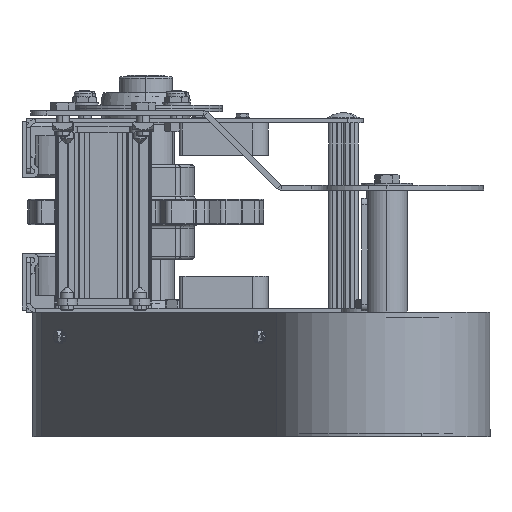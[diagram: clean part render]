
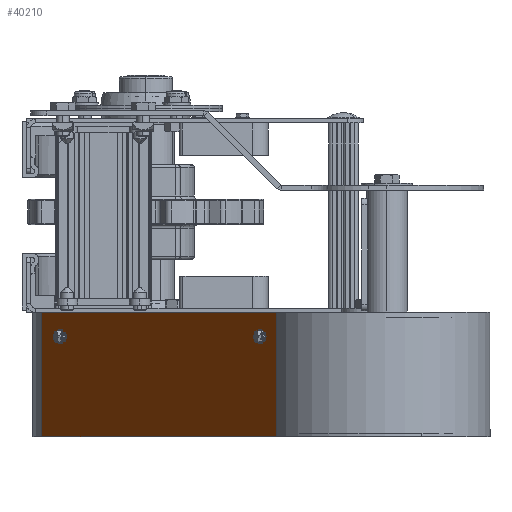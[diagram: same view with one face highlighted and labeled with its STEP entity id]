
A CAD part, left-side view. The second image highlights one B-rep face of the part: STEP entity #40210.
In plain terms, the highlighted planar face has unit normal (-0.396, 0.918, 0) as drawn and (0, -1, 0) by its records, which use the part's own axes.
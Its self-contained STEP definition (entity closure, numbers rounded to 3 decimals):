
#153 = DIRECTION ( 'NONE',  ( 0., 1., 0. ) ) ;
#901 = CIRCLE ( 'NONE', #42436, 2.75 ) ;
#2356 = VERTEX_POINT ( 'NONE', #32244 ) ;
#4697 = VECTOR ( 'NONE', #26829, 1000. ) ;
#8057 = ORIENTED_EDGE ( 'NONE', *, *, #51981, .T. ) ;
#9080 = CARTESIAN_POINT ( 'NONE',  ( -164.5, -69., -62.75 ) ) ;
#10055 = VERTEX_POINT ( 'NONE', #20949 ) ;
#10252 = CARTESIAN_POINT ( 'NONE',  ( -184., -69., -75. ) ) ;
#11652 = CIRCLE ( 'NONE', #37128, 2.75 ) ;
#11944 = LINE ( 'NONE', #9080, #53542 ) ;
#12694 = VERTEX_POINT ( 'NONE', #31826 ) ;
#12852 = ORIENTED_EDGE ( 'NONE', *, *, #34123, .T. ) ;
#13617 = CARTESIAN_POINT ( 'NONE',  ( -164.5, -69., -57.25 ) ) ;
#14373 = CARTESIAN_POINT ( 'NONE',  ( -184., -69., 2. ) ) ;
#14494 = LINE ( 'NONE', #13617, #27791 ) ;
#15611 = DIRECTION ( 'NONE',  ( 0., 1., 0. ) ) ;
#18172 = LINE ( 'NONE', #54017, #35004 ) ;
#18184 = LINE ( 'NONE', #42846, #48252 ) ;
#18788 = CARTESIAN_POINT ( 'NONE',  ( -164.5, -69., -57.25 ) ) ;
#19895 = DIRECTION ( 'NONE',  ( 1., 0., 0. ) ) ;
#20189 = DIRECTION ( 'NONE',  ( 0., 0., 1. ) ) ;
#20949 = CARTESIAN_POINT ( 'NONE',  ( -184., -69., -75. ) ) ;
#21065 = VERTEX_POINT ( 'NONE', #23777 ) ;
#21815 = DIRECTION ( 'NONE',  ( 0., 1., 0. ) ) ;
#21863 = EDGE_CURVE ( 'NONE', #10055, #21065, #18172, .T. ) ;
#22363 = FACE_OUTER_BOUND ( 'NONE', #39477, .T. ) ;
#22586 = ORIENTED_EDGE ( 'NONE', *, *, #46576, .T. ) ;
#23777 = CARTESIAN_POINT ( 'NONE',  ( -184., -69., 2. ) ) ;
#24729 = VERTEX_POINT ( 'NONE', #57470 ) ;
#26731 = VECTOR ( 'NONE', #59859, 1000. ) ;
#26829 = DIRECTION ( 'NONE',  ( 1., 0., 0. ) ) ;
#26947 = AXIS2_PLACEMENT_3D ( 'NONE', #42391, #53731, #19895 ) ;
#27505 = EDGE_CURVE ( 'NONE', #21065, #40782, #41786, .T. ) ;
#27523 = EDGE_CURVE ( 'NONE', #24729, #73101, #11652, .T. ) ;
#27791 = VECTOR ( 'NONE', #53193, 1000. ) ;
#28109 = ORIENTED_EDGE ( 'NONE', *, *, #39748, .T. ) ;
#28807 = ORIENTED_EDGE ( 'NONE', *, *, #30321, .T. ) ;
#29149 = ORIENTED_EDGE ( 'NONE', *, *, #21863, .F. ) ;
#29393 = EDGE_CURVE ( 'NONE', #64708, #12694, #901, .T. ) ;
#29573 = DIRECTION ( 'NONE',  ( 0., 1., 0. ) ) ;
#30321 = EDGE_CURVE ( 'NONE', #53188, #32774, #35271, .T. ) ;
#31826 = CARTESIAN_POINT ( 'NONE',  ( 148.5, -69., -57.25 ) ) ;
#31836 = DIRECTION ( 'NONE',  ( -1., 0., 0. ) ) ;
#32244 = CARTESIAN_POINT ( 'NONE',  ( 161.5, -69., -57.25 ) ) ;
#32774 = VERTEX_POINT ( 'NONE', #18788 ) ;
#33006 = LINE ( 'NONE', #55230, #4697 ) ;
#34058 = CARTESIAN_POINT ( 'NONE',  ( 161.5, -69., -60. ) ) ;
#34123 = EDGE_CURVE ( 'NONE', #73101, #53188, #11944, .T. ) ;
#35004 = VECTOR ( 'NONE', #20189, 1000. ) ;
#35271 = CIRCLE ( 'NONE', #72286, 2.75 ) ;
#35653 = FACE_BOUND ( 'NONE', #72654, .T. ) ;
#36731 = VECTOR ( 'NONE', #56068, 1000. ) ;
#37128 = AXIS2_PLACEMENT_3D ( 'NONE', #55662, #21815, #61331 ) ;
#39477 = EDGE_LOOP ( 'NONE', ( #58855, #29149, #28109, #49032 ) ) ;
#39577 = VERTEX_POINT ( 'NONE', #42235 ) ;
#39726 = DIRECTION ( 'NONE',  ( 0., 0., -1. ) ) ;
#39748 = EDGE_CURVE ( 'NONE', #10055, #39577, #47181, .T. ) ;
#40210 = ADVANCED_FACE ( 'NONE', ( #35653, #65669, #22363 ), #48051, .T. ) ;
#40782 = VERTEX_POINT ( 'NONE', #65010 ) ;
#41786 = LINE ( 'NONE', #14373, #26731 ) ;
#42235 = CARTESIAN_POINT ( 'NONE',  ( 184., -69., -75. ) ) ;
#42391 = CARTESIAN_POINT ( 'NONE',  ( -184., -69., -75. ) ) ;
#42436 = AXIS2_PLACEMENT_3D ( 'NONE', #49481, #15611, #55152 ) ;
#42846 = CARTESIAN_POINT ( 'NONE',  ( 184., -69., -75. ) ) ;
#44275 = EDGE_CURVE ( 'NONE', #39577, #40782, #18184, .T. ) ;
#46576 = EDGE_CURVE ( 'NONE', #48713, #64708, #51754, .T. ) ;
#46798 = CIRCLE ( 'NONE', #61810, 2.75 ) ;
#47181 = LINE ( 'NONE', #10252, #48944 ) ;
#48051 = PLANE ( 'NONE',  #26947 ) ;
#48252 = VECTOR ( 'NONE', #53943, 1000. ) ;
#48713 = VERTEX_POINT ( 'NONE', #52435 ) ;
#48944 = VECTOR ( 'NONE', #49849, 1000. ) ;
#49032 = ORIENTED_EDGE ( 'NONE', *, *, #44275, .T. ) ;
#49481 = CARTESIAN_POINT ( 'NONE',  ( 148.5, -69., -60. ) ) ;
#49602 = ORIENTED_EDGE ( 'NONE', *, *, #60375, .T. ) ;
#49849 = DIRECTION ( 'NONE',  ( 1., 0., 0. ) ) ;
#51754 = LINE ( 'NONE', #61709, #36731 ) ;
#51981 = EDGE_CURVE ( 'NONE', #12694, #2356, #33006, .T. ) ;
#52252 = ORIENTED_EDGE ( 'NONE', *, *, #57562, .T. ) ;
#52435 = CARTESIAN_POINT ( 'NONE',  ( 161.5, -69., -62.75 ) ) ;
#53188 = VERTEX_POINT ( 'NONE', #67080 ) ;
#53193 = DIRECTION ( 'NONE',  ( 1., 0., 0. ) ) ;
#53542 = VECTOR ( 'NONE', #31836, 1000. ) ;
#53731 = DIRECTION ( 'NONE',  ( 0., -1., 0. ) ) ;
#53943 = DIRECTION ( 'NONE',  ( 0., 0., 1. ) ) ;
#54017 = CARTESIAN_POINT ( 'NONE',  ( -184., -69., -75. ) ) ;
#55152 = DIRECTION ( 'NONE',  ( 0., 0., -1. ) ) ;
#55230 = CARTESIAN_POINT ( 'NONE',  ( 161.5, -69., -57.25 ) ) ;
#55662 = CARTESIAN_POINT ( 'NONE',  ( -151.5, -69., -60. ) ) ;
#56068 = DIRECTION ( 'NONE',  ( -1., 0., 0. ) ) ;
#57470 = CARTESIAN_POINT ( 'NONE',  ( -151.5, -69., -57.25 ) ) ;
#57562 = EDGE_CURVE ( 'NONE', #32774, #24729, #14494, .T. ) ;
#58855 = ORIENTED_EDGE ( 'NONE', *, *, #27505, .F. ) ;
#59779 = EDGE_LOOP ( 'NONE', ( #28807, #52252, #70807, #12852 ) ) ;
#59859 = DIRECTION ( 'NONE',  ( 1., 0., 0. ) ) ;
#60375 = EDGE_CURVE ( 'NONE', #2356, #48713, #46798, .T. ) ;
#61331 = DIRECTION ( 'NONE',  ( 0., 0., 1. ) ) ;
#61709 = CARTESIAN_POINT ( 'NONE',  ( 161.5, -69., -62.75 ) ) ;
#61810 = AXIS2_PLACEMENT_3D ( 'NONE', #34058, #153, #39726 ) ;
#63404 = CARTESIAN_POINT ( 'NONE',  ( -164.5, -69., -60. ) ) ;
#64708 = VERTEX_POINT ( 'NONE', #72908 ) ;
#65010 = CARTESIAN_POINT ( 'NONE',  ( 184., -69., 2. ) ) ;
#65669 = FACE_BOUND ( 'NONE', #59779, .T. ) ;
#66970 = ORIENTED_EDGE ( 'NONE', *, *, #29393, .T. ) ;
#67080 = CARTESIAN_POINT ( 'NONE',  ( -164.5, -69., -62.75 ) ) ;
#69124 = DIRECTION ( 'NONE',  ( 0., 0., 1. ) ) ;
#70807 = ORIENTED_EDGE ( 'NONE', *, *, #27523, .T. ) ;
#72286 = AXIS2_PLACEMENT_3D ( 'NONE', #63404, #29573, #69124 ) ;
#72287 = CARTESIAN_POINT ( 'NONE',  ( -151.5, -69., -62.75 ) ) ;
#72654 = EDGE_LOOP ( 'NONE', ( #49602, #22586, #66970, #8057 ) ) ;
#72908 = CARTESIAN_POINT ( 'NONE',  ( 148.5, -69., -62.75 ) ) ;
#73101 = VERTEX_POINT ( 'NONE', #72287 ) ;
